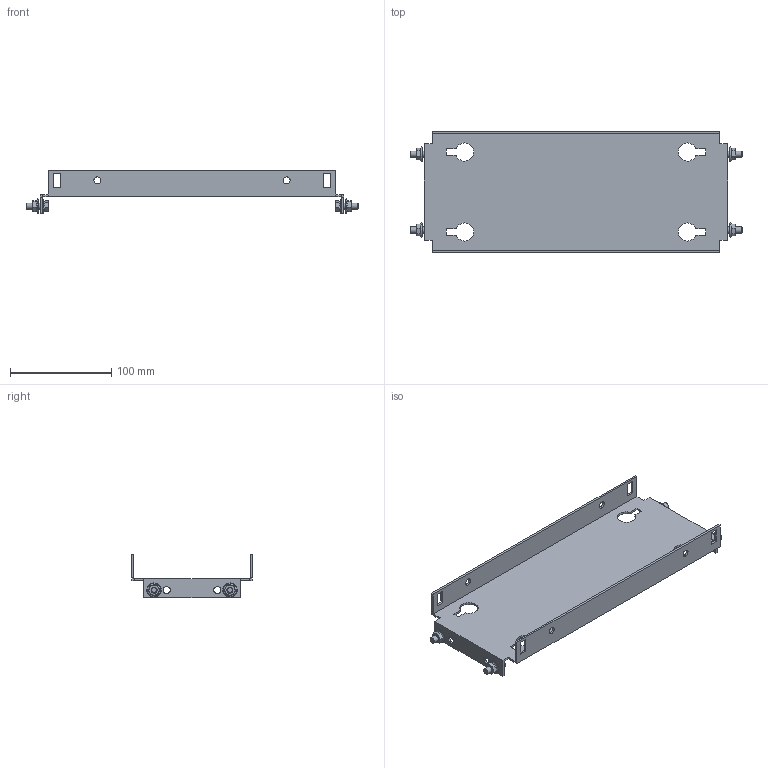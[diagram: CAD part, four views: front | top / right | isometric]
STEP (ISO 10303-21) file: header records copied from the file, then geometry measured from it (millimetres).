
FILE_DESCRIPTION(('Open CASCADE Model'),'2;1');
FILE_NAME('Open CASCADE Shape Model','2025-02-20T13:24:38',('Author'),( 'Open CASCADE'),'Open CASCADE STEP processor 7.8','Open CASCADE 7.8' ,'Unknown');
FILE_SCHEMA(('AUTOMOTIVE_DESIGN { 1 0 10303 214 1 1 1 1 }'));
Length unit declared in the file: millimetre
Products named in the file (4): Compound1; Solid1; Solid2; Solid3
Assembly tree (9 placements, depth 2):
  Compound1
    Solid1
    Solid2  x4
    Solid3  x4
Bounding box: 328 x 119 x 43 mm (x, y, z)
Volume: 106503.7 mm3; surface area: 109005.8 mm2
Topology: 9 solids, 9 shells, 306 faces, 746 edges, 462 vertices
Faces by surface type: plane 150, cone 68, bspline 48, cylinder 28, torus 12
Full cylindrical faces by diameter (mm): 5 x4, 6 x8, 7 x12
Entity records: 4844 total; most frequent: CARTESIAN_POINT 1361, ORIENTED_EDGE 742, DIRECTION 628, EDGE_CURVE 371, VERTEX_POINT 240, LINE 216, VECTOR 216, AXIS2_PLACEMENT_3D 206
